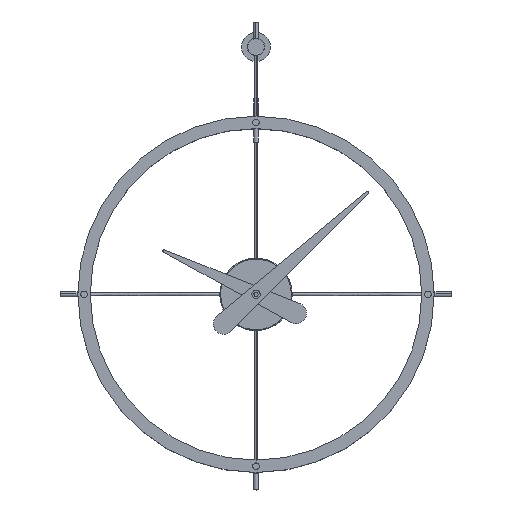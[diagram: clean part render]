
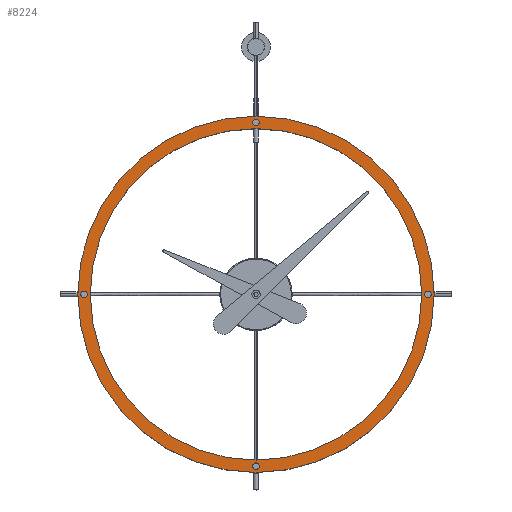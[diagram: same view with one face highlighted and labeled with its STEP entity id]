
A CAD part, top view. The second image highlights one B-rep face of the part: STEP entity #8224.
In plain terms, the highlighted planar face has unit normal (0, 0, 1).
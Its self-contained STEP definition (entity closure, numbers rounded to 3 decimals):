
#309 = AXIS2_PLACEMENT_3D ( 'NONE', #7610, #5177, #1157 ) ;
#338 = CARTESIAN_POINT ( 'NONE',  ( -209.5, 0., 3. ) ) ;
#590 = DIRECTION ( 'NONE',  ( 1., 0., 0. ) ) ;
#658 = ORIENTED_EDGE ( 'NONE', *, *, #9026, .F. ) ;
#845 = ORIENTED_EDGE ( 'NONE', *, *, #5282, .F. ) ;
#846 = EDGE_CURVE ( 'NONE', #4039, #7564, #2292, .T. ) ;
#1050 = CARTESIAN_POINT ( 'NONE',  ( 0., 0., 3. ) ) ;
#1058 = AXIS2_PLACEMENT_3D ( 'NONE', #5388, #8758, #7100 ) ;
#1089 = DIRECTION ( 'NONE',  ( 0., 0., 1. ) ) ;
#1157 = DIRECTION ( 'NONE',  ( 1., 0., 0. ) ) ;
#1312 = DIRECTION ( 'NONE',  ( 0., 0., 1. ) ) ;
#1354 = DIRECTION ( 'NONE',  ( 0., 0., 1. ) ) ;
#1372 = EDGE_CURVE ( 'NONE', #3904, #3867, #4923, .T. ) ;
#1374 = DIRECTION ( 'NONE',  ( 0., 0., 1. ) ) ;
#1417 = VERTEX_POINT ( 'NONE', #6913 ) ;
#1471 = CARTESIAN_POINT ( 'NONE',  ( 0., 0., 3. ) ) ;
#1630 = AXIS2_PLACEMENT_3D ( 'NONE', #1843, #2641, #3554 ) ;
#1719 = EDGE_CURVE ( 'NONE', #9850, #2674, #7620, .T. ) ;
#1744 = CARTESIAN_POINT ( 'NONE',  ( 205.5, 0., 3. ) ) ;
#1843 = CARTESIAN_POINT ( 'NONE',  ( 207.5, 0., 3. ) ) ;
#2010 = AXIS2_PLACEMENT_3D ( 'NONE', #2958, #1374, #7005 ) ;
#2041 = DIRECTION ( 'NONE',  ( 0., 0., 1. ) ) ;
#2211 = AXIS2_PLACEMENT_3D ( 'NONE', #1471, #6288, #7033 ) ;
#2292 = CIRCLE ( 'NONE', #7699, 215. ) ;
#2293 = ORIENTED_EDGE ( 'NONE', *, *, #1372, .F. ) ;
#2398 = AXIS2_PLACEMENT_3D ( 'NONE', #8430, #6809, #6732 ) ;
#2515 = CIRCLE ( 'NONE', #8838, 2. ) ;
#2575 = VERTEX_POINT ( 'NONE', #5228 ) ;
#2641 = DIRECTION ( 'NONE',  ( 0., 0., 1. ) ) ;
#2654 = FACE_BOUND ( 'NONE', #6220, .T. ) ;
#2674 = VERTEX_POINT ( 'NONE', #3736 ) ;
#2827 = DIRECTION ( 'NONE',  ( 0., 0., 1. ) ) ;
#2897 = CIRCLE ( 'NONE', #5523, 200. ) ;
#2958 = CARTESIAN_POINT ( 'NONE',  ( -207.5, 0., 3. ) ) ;
#3137 = EDGE_LOOP ( 'NONE', ( #5427, #7504 ) ) ;
#3197 = EDGE_LOOP ( 'NONE', ( #2293, #9165 ) ) ;
#3395 = FACE_BOUND ( 'NONE', #3520, .T. ) ;
#3484 = CARTESIAN_POINT ( 'NONE',  ( 0., 207.5, 3. ) ) ;
#3520 = EDGE_LOOP ( 'NONE', ( #9705, #4416 ) ) ;
#3554 = DIRECTION ( 'NONE',  ( 1., 0., 0. ) ) ;
#3736 = CARTESIAN_POINT ( 'NONE',  ( 2., -207.5, 3. ) ) ;
#3867 = VERTEX_POINT ( 'NONE', #8980 ) ;
#3904 = VERTEX_POINT ( 'NONE', #1744 ) ;
#3936 = CIRCLE ( 'NONE', #5754, 2. ) ;
#4039 = VERTEX_POINT ( 'NONE', #5640 ) ;
#4186 = AXIS2_PLACEMENT_3D ( 'NONE', #10282, #2041, #5356 ) ;
#4416 = ORIENTED_EDGE ( 'NONE', *, *, #8472, .F. ) ;
#4564 = AXIS2_PLACEMENT_3D ( 'NONE', #3484, #7593, #5996 ) ;
#4610 = EDGE_LOOP ( 'NONE', ( #9747, #7000 ) ) ;
#4617 = CARTESIAN_POINT ( 'NONE',  ( 2., 207.5, 3. ) ) ;
#4923 = CIRCLE ( 'NONE', #1630, 2. ) ;
#4987 = VERTEX_POINT ( 'NONE', #7456 ) ;
#5131 = ORIENTED_EDGE ( 'NONE', *, *, #5902, .F. ) ;
#5169 = CARTESIAN_POINT ( 'NONE',  ( -2., -207.5, 3. ) ) ;
#5177 = DIRECTION ( 'NONE',  ( 0., 0., 1. ) ) ;
#5202 = EDGE_CURVE ( 'NONE', #7564, #4039, #10448, .T. ) ;
#5228 = CARTESIAN_POINT ( 'NONE',  ( 200., 0., 3. ) ) ;
#5282 = EDGE_CURVE ( 'NONE', #4987, #6416, #9933, .T. ) ;
#5295 = CIRCLE ( 'NONE', #2398, 2. ) ;
#5309 = FACE_BOUND ( 'NONE', #9265, .T. ) ;
#5356 = DIRECTION ( 'NONE',  ( 1., 0., 0. ) ) ;
#5372 = CARTESIAN_POINT ( 'NONE',  ( 0., 0., 3. ) ) ;
#5388 = CARTESIAN_POINT ( 'NONE',  ( -207.5, 0., 3. ) ) ;
#5427 = ORIENTED_EDGE ( 'NONE', *, *, #5202, .T. ) ;
#5445 = VERTEX_POINT ( 'NONE', #5543 ) ;
#5506 = CARTESIAN_POINT ( 'NONE',  ( 207.5, 0., 3. ) ) ;
#5523 = AXIS2_PLACEMENT_3D ( 'NONE', #5372, #2827, #10263 ) ;
#5527 = CARTESIAN_POINT ( 'NONE',  ( -215., 0., 3. ) ) ;
#5535 = ORIENTED_EDGE ( 'NONE', *, *, #9332, .F. ) ;
#5543 = CARTESIAN_POINT ( 'NONE',  ( -2., 207.5, 3. ) ) ;
#5640 = CARTESIAN_POINT ( 'NONE',  ( 215., 0., 3. ) ) ;
#5754 = AXIS2_PLACEMENT_3D ( 'NONE', #10214, #1312, #590 ) ;
#5854 = DIRECTION ( 'NONE',  ( 1., 0., 0. ) ) ;
#5902 = EDGE_CURVE ( 'NONE', #2575, #1417, #2897, .T. ) ;
#5996 = DIRECTION ( 'NONE',  ( 1., 0., 0. ) ) ;
#6022 = EDGE_CURVE ( 'NONE', #3867, #3904, #2515, .T. ) ;
#6220 = EDGE_LOOP ( 'NONE', ( #5535, #845 ) ) ;
#6288 = DIRECTION ( 'NONE',  ( 0., 0., 1. ) ) ;
#6338 = DIRECTION ( 'NONE',  ( 1., 0., 0. ) ) ;
#6416 = VERTEX_POINT ( 'NONE', #338 ) ;
#6433 = CARTESIAN_POINT ( 'NONE',  ( 0., 0., 3. ) ) ;
#6732 = DIRECTION ( 'NONE',  ( 1., 0., 0. ) ) ;
#6809 = DIRECTION ( 'NONE',  ( 0., 0., 1. ) ) ;
#6913 = CARTESIAN_POINT ( 'NONE',  ( -200., 0., 3. ) ) ;
#7000 = ORIENTED_EDGE ( 'NONE', *, *, #7448, .F. ) ;
#7005 = DIRECTION ( 'NONE',  ( 1., 0., 0. ) ) ;
#7033 = DIRECTION ( 'NONE',  ( 1., 0., 0. ) ) ;
#7100 = DIRECTION ( 'NONE',  ( 1., 0., 0. ) ) ;
#7221 = CIRCLE ( 'NONE', #4564, 2. ) ;
#7448 = EDGE_CURVE ( 'NONE', #2674, #9850, #3936, .T. ) ;
#7456 = CARTESIAN_POINT ( 'NONE',  ( -205.5, 0., 3. ) ) ;
#7484 = FACE_OUTER_BOUND ( 'NONE', #3137, .T. ) ;
#7504 = ORIENTED_EDGE ( 'NONE', *, *, #846, .T. ) ;
#7564 = VERTEX_POINT ( 'NONE', #5527 ) ;
#7593 = DIRECTION ( 'NONE',  ( 0., 0., 1. ) ) ;
#7610 = CARTESIAN_POINT ( 'NONE',  ( 0., 0., 3. ) ) ;
#7620 = CIRCLE ( 'NONE', #4186, 2. ) ;
#7699 = AXIS2_PLACEMENT_3D ( 'NONE', #6433, #8089, #5854 ) ;
#7937 = PLANE ( 'NONE',  #2211 ) ;
#8016 = FACE_BOUND ( 'NONE', #4610, .T. ) ;
#8089 = DIRECTION ( 'NONE',  ( 0., 0., 1. ) ) ;
#8224 = ADVANCED_FACE ( 'NONE', ( #8016, #3395, #7484, #5309, #9429, #2654 ), #7937, .T. ) ;
#8430 = CARTESIAN_POINT ( 'NONE',  ( 0., 207.5, 3. ) ) ;
#8472 = EDGE_CURVE ( 'NONE', #8748, #5445, #7221, .T. ) ;
#8498 = EDGE_CURVE ( 'NONE', #5445, #8748, #5295, .T. ) ;
#8748 = VERTEX_POINT ( 'NONE', #4617 ) ;
#8758 = DIRECTION ( 'NONE',  ( 0., 0., 1. ) ) ;
#8763 = AXIS2_PLACEMENT_3D ( 'NONE', #1050, #1089, #9321 ) ;
#8838 = AXIS2_PLACEMENT_3D ( 'NONE', #5506, #1354, #6338 ) ;
#8980 = CARTESIAN_POINT ( 'NONE',  ( 209.5, 0., 3. ) ) ;
#9026 = EDGE_CURVE ( 'NONE', #1417, #2575, #9143, .T. ) ;
#9143 = CIRCLE ( 'NONE', #8763, 200. ) ;
#9160 = CIRCLE ( 'NONE', #2010, 2. ) ;
#9165 = ORIENTED_EDGE ( 'NONE', *, *, #6022, .F. ) ;
#9265 = EDGE_LOOP ( 'NONE', ( #658, #5131 ) ) ;
#9321 = DIRECTION ( 'NONE',  ( 1., 0., 0. ) ) ;
#9332 = EDGE_CURVE ( 'NONE', #6416, #4987, #9160, .T. ) ;
#9429 = FACE_BOUND ( 'NONE', #3197, .T. ) ;
#9705 = ORIENTED_EDGE ( 'NONE', *, *, #8498, .F. ) ;
#9747 = ORIENTED_EDGE ( 'NONE', *, *, #1719, .F. ) ;
#9850 = VERTEX_POINT ( 'NONE', #5169 ) ;
#9933 = CIRCLE ( 'NONE', #1058, 2. ) ;
#10214 = CARTESIAN_POINT ( 'NONE',  ( 0., -207.5, 3. ) ) ;
#10263 = DIRECTION ( 'NONE',  ( 1., 0., 0. ) ) ;
#10282 = CARTESIAN_POINT ( 'NONE',  ( 0., -207.5, 3. ) ) ;
#10448 = CIRCLE ( 'NONE', #309, 215. ) ;
